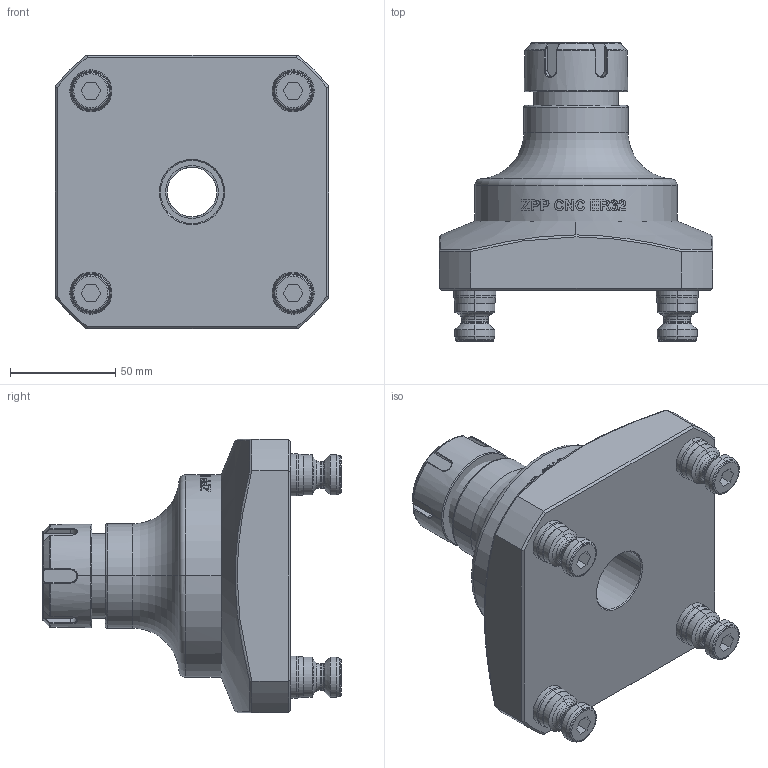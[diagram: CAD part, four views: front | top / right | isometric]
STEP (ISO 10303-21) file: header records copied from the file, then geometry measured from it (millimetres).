
FILE_DESCRIPTION((''),'2;1');
FILE_NAME('TS96-ER32_ASM','2025-01-09T18:18:37',('XF'),(''),'CREO PARAMETRIC BY PTC INC, 2023073','CREO PARAMETRIC BY PTC INC, 2023073','');
FILE_SCHEMA(('CONFIG_CONTROL_DESIGN'));
Length unit declared in the file: millimetre
Products named in the file (8): TS52-ER32_1_9_1_1; TS52-ER32_2_1_1_1; TS52-ER32_ASM_8_1_ASM_1_ASM; TS52-ER40_3_13_1; TS96-ER32_ASM_3_ASM_1_ASM; PS20F_1; TS96-ER32_ASM_1_ASM; TS96-ER32_ASM
Assembly tree (10 placements, depth 5):
  TS96-ER32_ASM
    TS96-ER32_ASM_1_ASM
      TS96-ER32_ASM_3_ASM_1_ASM
        TS52-ER32_ASM_8_1_ASM_1_ASM
          TS52-ER32_1_9_1_1
          TS52-ER32_2_1_1_1
        TS52-ER40_3_13_1
      PS20F_1  x4
Bounding box: 130 x 141.8 x 130 mm (x, y, z)
Volume: 715387.2 mm3; surface area: 101340.3 mm2
Topology: 7 solids, 12 shells, 642 faces, 1570 edges, 972 vertices
Faces by surface type: plane 171, extrusion 116, torus 114, cylinder 109, cone 86, bspline 46
Entity records: 17760 total; most frequent: CARTESIAN_POINT 6678, ORIENTED_EDGE 2384, DIRECTION 2009, EDGE_CURVE 1194, VERTEX_POINT 774, AXIS2_PLACEMENT_3D 708, VECTOR 593, EDGE_LOOP 500
